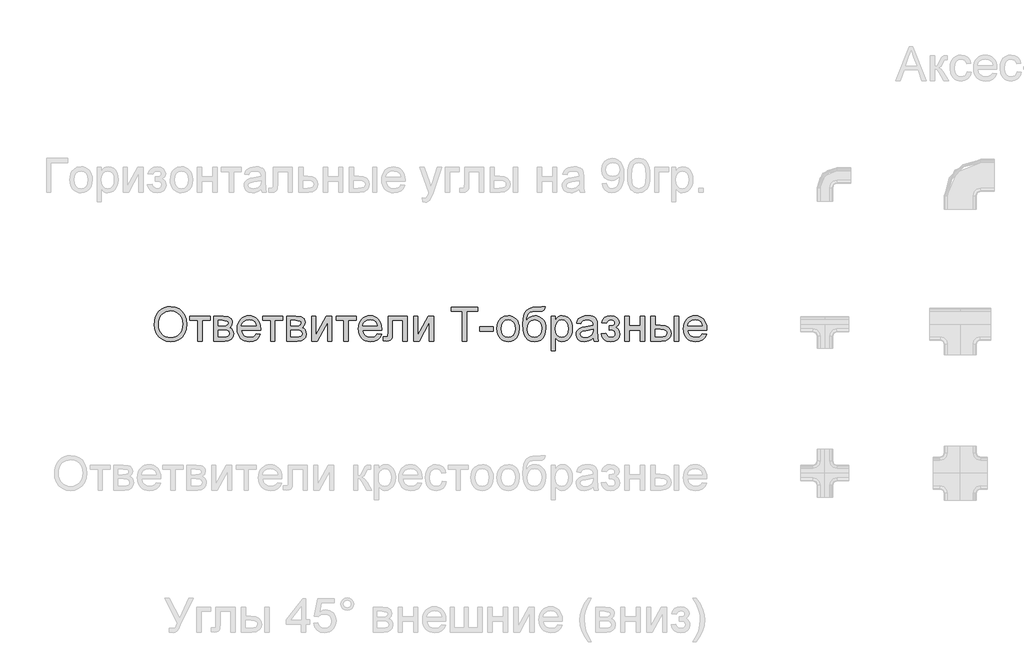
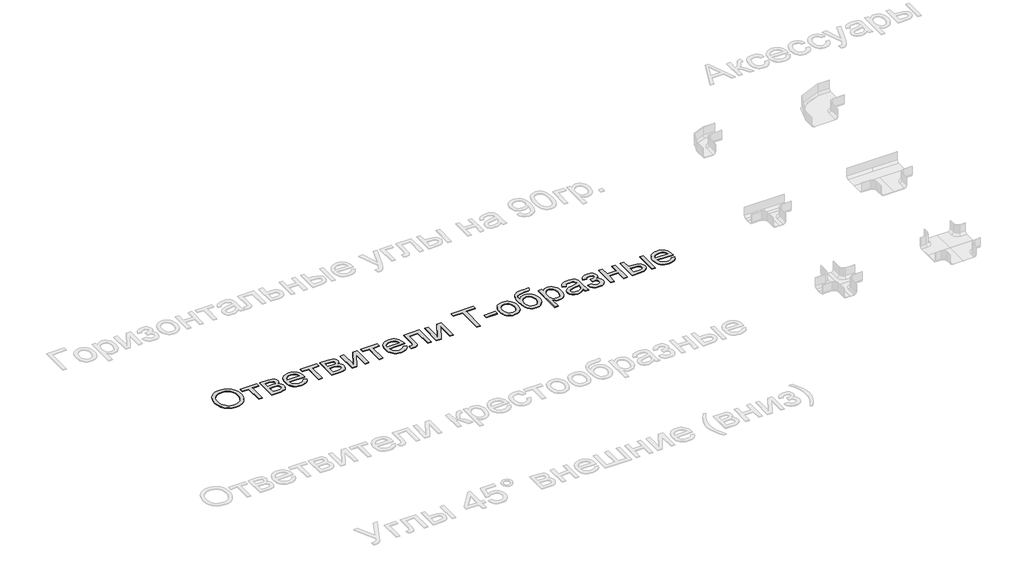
# One storey, part 6 of 11: 1 proxy.
"""IFC4 building model written with IfcOpenShell, lengths in millimetres."""

from ifc_helpers import new_model, si_unit, origin, origin_with_axes, place, context, project, spatial, polyline, outline, extrude, element, save

model = new_model("IFC4")

# Units and contexts
model_context = context("Model", 3, world=origin())
ifc_project = project(units=[si_unit("LENGTHUNIT", "METRE", prefix="MILLI")], contexts=[model_context])

# Site, building, storey
site = spatial("IfcSite", under=ifc_project)
building = spatial("IfcBuilding", under=site)
storey = spatial("IfcBuildingStorey", under=building, Name="Этаж 01", Elevation=0.0)

# Proxy
placement = place(None, origin())
element("IfcBuildingElementProxy", 1, Name="АБН_Маленькая надпись", ObjectType="АБН_Маленькая надпись", at=placement, inside=storey, context=model_context, shape_type="SweptSolid", body=[
    extrude(outline(polyline([(-18671.6670902, 5803.789007), (-18669.5747614, 5833.2463913), (-18663.2977748, 5859.3238599), (-18652.8361306, 5882.0214125), (-18638.1898287, 5901.3390494), (-18620.2364209, 5916.7632685), (-18599.8534591, 5927.7805678), (-18577.0409433, 5934.3909474), (-18551.7988735, 5936.5944073), (-18518.8581065, 5932.4557348), (-18489.320248, 5920.0397175), (-18464.7947816, 5900.220075), (-18446.8911912, 5873.8705271), (-18435.9467018, 5842.2633323), (-18432.2985387, 5806.6707493), (-18436.138307, 5770.6029854), (-18447.657612, 5738.5512665), (-18466.2203243, 5712.1557334), (-18491.1903148, 5693.0565265), (-18520.4752544, 5681.4682436), (-18551.9828145, 5677.6054827), (-18585.4294192, 5681.8744466), (-18615.1358903, 5694.6813386), (-18639.600043, 5714.8688631), (-18657.3196924, 5741.2797247), (-18668.0802408, 5771.6683103), (-18671.6670902, 5803.789007)]), holes=[polyline([(-18640.2744933, 5803.4824387), (-18638.7052467, 5782.6702812), (-18633.9975068, 5764.1957073), (-18626.1512736, 5748.0587168), (-18615.1665471, 5734.2593099), (-18601.8135803, 5723.2075216), (-18586.8626261, 5715.3133872), (-18570.3136845, 5710.5769065), (-18552.1667555, 5708.9980796), (-18533.709426, 5710.5922349), (-18516.9650471, 5715.3747008), (-18501.9336187, 5723.3454774), (-18488.6151408, 5734.5045646), (-18477.7108885, 5748.5952114), (-18469.9221369, 5765.3606669), (-18465.2488859, 5784.8009311), (-18463.6911356, 5806.916004), (-18466.3582801, 5834.706423), (-18474.3597135, 5858.7260516), (-18487.4885022, 5878.3694173), (-18505.5377126, 5893.0310477), (-18527.3117282, 5902.1591197), (-18551.6149325, 5905.2018103), (-18585.3834339, 5899.338691), (-18614.093558, 5881.7493331), (-18625.5477172, 5868.0629733), (-18633.7292595, 5850.4563709), (-18638.6381849, 5828.9295261), (-18640.2744933, 5803.4824387)])]), origin_with_axes(), (0.0, 0.0, 1.0), 5.0),
    extrude(outline(polyline([(-18408.754091, 5865.9610642), (-18259.6392556, 5865.9610642), (-18259.6392556, 5834.5684673), (-18318.5003749, 5834.5684673), (-18318.5003749, 5681.5295573), (-18349.8929718, 5681.5295573), (-18349.8929718, 5834.5684673), (-18408.754091, 5834.5684673), (-18408.754091, 5865.9610642)])), origin_with_axes(), (0.0, 0.0, 1.0), 5.0),
    extrude(outline(polyline([(-18232.1707333, 5865.9610642), (-18163.0089182, 5865.9610642), (-18125.0864159, 5861.7610781), (-18113.5441183, 5855.8136525), (-18103.7492602, 5846.3713479), (-18097.0584064, 5834.0702937), (-18094.8281218, 5819.5466191), (-18100.2237244, 5797.7496109), (-18116.4718458, 5782.2065966), (-18104.8529062, 5775.6843554), (-18095.3799448, 5765.1920543), (-18089.0799656, 5751.5574279), (-18086.9799726, 5735.6082106), (-18092.2989331, 5711.6805525), (-18104.9448767, 5694.8346228), (-18124.9637886, 5684.8558236), (-18152.401654, 5681.5295573), (-18232.1707333, 5681.5295573), (-18232.1707333, 5865.9610642)]), holes=[polyline([(-18200.7781364, 5795.3277211), (-18169.7534215, 5795.3277211), (-18144.154966, 5796.9218764), (-18131.7082918, 5803.2984977), (-18126.2207187, 5814.8254669), (-18128.6272801, 5824.1911293), (-18135.8469643, 5830.215197), (-18168.7724028, 5834.5684673), (-18200.7781364, 5834.5684673), (-18200.7781364, 5795.3277211)]), polyline([(-18200.7781364, 5712.9221542), (-18162.2731542, 5712.9221542), (-18141.2885521, 5714.3400327), (-18128.1214424, 5718.5936683), (-18121.0550424, 5726.3268544), (-18118.3725695, 5738.1833845), (-18123.7375153, 5753.2972032), (-18137.7170311, 5762.0957142), (-18165.3388375, 5763.9351242), (-18200.7781364, 5763.9351242), (-18200.7781364, 5712.9221542)])]), origin_with_axes(), (0.0, 0.0, 1.0), 5.0),
    extrude(outline(polyline([(-17918.6126461, 5736.4666019), (-17887.8331858, 5732.5425273), (-17898.9232952, 5709.3506332), (-17916.619952, 5692.0141941), (-17940.5246174, 5681.2076605), (-17970.2387528, 5677.6054827), (-17989.717338, 5679.1594009), (-18007.0729375, 5683.8211555), (-18022.3055514, 5691.5907466), (-18035.4151796, 5702.4681742), (-18045.957298, 5716.1507019), (-18053.4873826, 5732.3355937), (-18058.0054333, 5751.0228494), (-18059.5114503, 5772.2124691), (-18057.9901049, 5794.1206083), (-18053.4260689, 5813.430581), (-18045.8193423, 5830.142387), (-18035.1699249, 5844.2560265), (-18022.0947857, 5855.4687631), (-18007.2108933, 5863.4778607), (-17990.5182477, 5868.2833193), (-17972.0168491, 5869.8851388), (-17954.1113426, 5868.2871514), (-17937.9187866, 5863.4931891), (-17923.4391812, 5855.5032521), (-17910.6725264, 5844.3173401), (-17900.2511192, 5830.2343575), (-17892.807257, 5813.5532083), (-17888.3409396, 5794.2738925), (-17886.8521672, 5772.3964101), (-17887.0361082, 5763.9351242), (-18028.1188533, 5763.9351242), (-18022.6849297, 5740.4366618), (-18010.0619787, 5723.1615364), (-17991.8441558, 5712.5389438), (-17969.6256161, 5708.9980796), (-17952.9176422, 5710.6382201), (-17938.8461558, 5715.5586418), (-17927.4111572, 5724.065913), (-17918.6126461, 5736.4666019)]), holes=[polyline([(-18028.1188533, 5795.3277211), (-17918.2447641, 5795.3277211), (-17922.4907355, 5811.9130677), (-17930.8140656, 5823.7772621), (-17949.1161949, 5834.8137219), (-17972.1394764, 5838.4925419), (-17993.3003553, 5835.5571501), (-18010.7977427, 5826.7509749), (-18022.9608412, 5813.0243779), (-18028.1188533, 5795.3277211)])]), origin_with_axes(), (0.0, 0.0, 1.0), 5.0),
    extrude(outline(polyline([(-17871.1558687, 5865.9610642), (-17722.0410334, 5865.9610642), (-17722.0410334, 5834.5684673), (-17780.9021526, 5834.5684673), (-17780.9021526, 5681.5295573), (-17812.2947495, 5681.5295573), (-17812.2947495, 5834.5684673), (-17871.1558687, 5834.5684673), (-17871.1558687, 5865.9610642)])), origin_with_axes(), (0.0, 0.0, 1.0), 5.0),
    extrude(outline(polyline([(-17694.572511, 5865.9610642), (-17625.410696, 5865.9610642), (-17587.4881936, 5861.7610781), (-17575.945896, 5855.8136525), (-17566.1510379, 5846.3713479), (-17559.4601841, 5834.0702937), (-17557.2298995, 5819.5466191), (-17562.6255021, 5797.7496109), (-17578.8736236, 5782.2065966), (-17567.2546839, 5775.6843554), (-17557.7817225, 5765.1920543), (-17551.4817433, 5751.5574279), (-17549.3817503, 5735.6082106), (-17554.7007108, 5711.6805525), (-17567.3466544, 5694.8346228), (-17587.3655663, 5684.8558236), (-17614.8034318, 5681.5295573), (-17694.572511, 5681.5295573), (-17694.572511, 5865.9610642)]), holes=[polyline([(-17663.1799141, 5795.3277211), (-17632.1551992, 5795.3277211), (-17606.5567437, 5796.9218764), (-17594.1100695, 5803.2984977), (-17588.6224964, 5814.8254669), (-17591.0290578, 5824.1911293), (-17598.248742, 5830.215197), (-17631.1741805, 5834.5684673), (-17663.1799141, 5834.5684673), (-17663.1799141, 5795.3277211)]), polyline([(-17663.1799141, 5712.9221542), (-17624.674932, 5712.9221542), (-17603.6903298, 5714.3400327), (-17590.5232201, 5718.5936683), (-17583.4568201, 5726.3268544), (-17580.7743472, 5738.1833845), (-17586.139293, 5753.2972032), (-17600.1188088, 5762.0957142), (-17627.7406153, 5763.9351242), (-17663.1799141, 5763.9351242), (-17663.1799141, 5712.9221542)])]), origin_with_axes(), (0.0, 0.0, 1.0), 5.0),
    extrude(outline(polyline([(-17510.1410041, 5865.9610642), (-17478.7484072, 5865.9610642), (-17478.7484072, 5725.3075147), (-17401.6158156, 5865.9610642), (-17361.0261688, 5865.9610642), (-17361.0261688, 5681.5295573), (-17392.4187657, 5681.5295573), (-17392.4187657, 5821.3247154), (-17469.060848, 5681.5295573), (-17510.1410041, 5681.5295573), (-17510.1410041, 5865.9610642)])), origin_with_axes(), (0.0, 0.0, 1.0), 5.0),
    extrude(outline(polyline([(-17329.6335718, 5865.9610642), (-17180.5187364, 5865.9610642), (-17180.5187364, 5834.5684673), (-17239.3798557, 5834.5684673), (-17239.3798557, 5681.5295573), (-17270.7724526, 5681.5295573), (-17270.7724526, 5834.5684673), (-17329.6335718, 5834.5684673), (-17329.6335718, 5865.9610642)])), origin_with_axes(), (0.0, 0.0, 1.0), 5.0),
    extrude(outline(polyline([(-17023.9236338, 5736.4666019), (-16993.1441736, 5732.5425273), (-17004.2342829, 5709.3506332), (-17021.9309397, 5692.0141941), (-17045.8356052, 5681.2076605), (-17075.5497405, 5677.6054827), (-17095.0283257, 5679.1594009), (-17112.3839253, 5683.8211555), (-17127.6165391, 5691.5907466), (-17140.7261673, 5702.4681742), (-17151.2682857, 5716.1507019), (-17158.7983703, 5732.3355937), (-17163.3164211, 5751.0228494), (-17164.822438, 5772.2124691), (-17163.3010927, 5794.1206083), (-17158.7370567, 5813.430581), (-17151.13033, 5830.142387), (-17140.4809126, 5844.2560265), (-17127.4057734, 5855.4687631), (-17112.521881, 5863.4778607), (-17095.8292355, 5868.2833193), (-17077.3278368, 5869.8851388), (-17059.4223303, 5868.2871514), (-17043.2297744, 5863.4931891), (-17028.750169, 5855.5032521), (-17015.9835141, 5844.3173401), (-17005.562107, 5830.2343575), (-16998.1182447, 5813.5532083), (-16993.6519274, 5794.2738925), (-16992.1631549, 5772.3964101), (-16992.3470959, 5763.9351242), (-17133.4298411, 5763.9351242), (-17127.9959174, 5740.4366618), (-17115.3729665, 5723.1615364), (-17097.1551435, 5712.5389438), (-17074.9366038, 5708.9980796), (-17058.2286299, 5710.6382201), (-17044.1571436, 5715.5586418), (-17032.7221449, 5724.065913), (-17023.9236338, 5736.4666019)]), holes=[polyline([(-17133.4298411, 5795.3277211), (-17023.5557518, 5795.3277211), (-17027.8017232, 5811.9130677), (-17036.1250533, 5823.7772621), (-17054.4271826, 5834.8137219), (-17077.4504641, 5838.4925419), (-17098.6113431, 5835.5571501), (-17116.1087305, 5826.7509749), (-17128.2718289, 5813.0243779), (-17133.4298411, 5795.3277211)])]), origin_with_axes(), (0.0, 0.0, 1.0), 5.0),
    extrude(outline(polyline([(-16945.0742595, 5865.9610642), (-16803.8075734, 5865.9610642), (-16803.8075734, 5681.7134983), (-16835.2001703, 5681.7134983), (-16835.2001703, 5834.5684673), (-16913.6816626, 5834.5684673), (-16913.6816626, 5746.5833568), (-16915.7969841, 5705.99371), (-16919.7593797, 5696.8043243), (-16927.4159238, 5688.8565403), (-16939.0348634, 5683.361303), (-16954.8844461, 5681.5295573), (-16980.3909311, 5683.1237126), (-16980.3909311, 5712.9221542), (-16966.3501016, 5712.9221542), (-16952.1559879, 5714.8535347), (-16946.4844739, 5720.9849013), (-16945.0742595, 5748.3614531), (-16945.0742595, 5865.9610642)])), origin_with_axes(), (0.0, 0.0, 1.0), 5.0),
    extrude(outline(polyline([(-16756.718678, 5865.9610642), (-16725.3260811, 5865.9610642), (-16725.3260811, 5725.3075147), (-16648.1934894, 5865.9610642), (-16607.6038426, 5865.9610642), (-16607.6038426, 5681.5295573), (-16638.9964395, 5681.5295573), (-16638.9964395, 5821.3247154), (-16715.6385219, 5681.5295573), (-16756.718678, 5681.5295573), (-16756.718678, 5865.9610642)])), origin_with_axes(), (0.0, 0.0, 1.0), 5.0),
    extrude(outline(polyline([(-16395.7038134, 5681.5295573), (-16395.7038134, 5901.2777357), (-16478.1093803, 5901.2777357), (-16478.1093803, 5932.6703326), (-16281.9056496, 5932.6703326), (-16281.9056496, 5901.2777357), (-16364.3112165, 5901.2777357), (-16364.3112165, 5681.5295573), (-16395.7038134, 5681.5295573)])), origin_with_axes(), (0.0, 0.0, 1.0), 5.0),
    extrude(outline(polyline([(-16266.2093511, 5756.086975), (-16266.2093511, 5787.4795719), (-16168.1074857, 5787.4795719), (-16168.1074857, 5756.086975), (-16266.2093511, 5756.086975)])), origin_with_axes(), (0.0, 0.0, 1.0), 5.0),
    extrude(outline(polyline([(-16140.6389634, 5773.7453107), (-16138.9413413, 5797.6308157), (-16133.8484749, 5818.2130469), (-16125.3603643, 5835.4920044), (-16113.4770094, 5849.4676881), (-16088.3077496, 5864.7807761), (-16058.1720828, 5869.8851388), (-16040.8528883, 5868.3312206), (-16025.1929948, 5863.6694659), (-16011.1924024, 5855.8998748), (-15998.8511111, 5845.0224473), (-15988.7784254, 5831.4050653), (-15981.58365, 5815.4156109), (-15977.2667847, 5797.054084), (-15975.8278296, 5776.3204847), (-15978.3723467, 5744.605991), (-15986.0058981, 5720.4637351), (-15998.5062217, 5702.3838679), (-16015.6510556, 5688.8565403), (-16036.0148568, 5680.4182471), (-16058.1720828, 5677.6054827), (-16075.7441963, 5679.1536527), (-16091.5497097, 5683.7981629), (-16105.5886231, 5691.5390132), (-16117.8609365, 5702.3762037), (-16127.8263233, 5716.1257932), (-16134.9444567, 5732.6038409), (-16139.2153367, 5751.8103468), (-16140.6389634, 5773.7453107)]), holes=[polyline([(-16109.2463665, 5773.8066244), (-16105.6135318, 5745.3954045), (-16094.7150277, 5725.1542305), (-16078.3136221, 5713.0371173), (-16058.1720828, 5708.9980796), (-16038.1225141, 5713.0601099), (-16021.7517653, 5725.246201), (-16010.8532612, 5745.7556223), (-16007.2204265, 5774.7876431), (-16010.8762538, 5802.3711285), (-16021.8437358, 5822.3363909), (-16038.2374772, 5834.4535041), (-16058.1720828, 5838.4925419), (-16078.3136221, 5834.4688326), (-16094.7150277, 5822.3977046), (-16105.6135318, 5802.2025159), (-16109.2463665, 5773.8066244)])]), origin_with_axes(), (0.0, 0.0, 1.0), 5.0),
    extrude(outline(polyline([(-15811.0166957, 5936.5944073), (-15783.5481734, 5936.5944073), (-15786.5218862, 5921.6721938), (-15791.6415773, 5912.0995978), (-15807.6444441, 5903.239773), (-15846.0881126, 5901.2777357), (-15878.0095399, 5899.4689826), (-15897.8675034, 5894.0427232), (-15909.7470262, 5884.6310754), (-15917.7331312, 5870.8661575), (-15922.4312908, 5852.6406703), (-15924.4469776, 5829.847315), (-15911.8240266, 5847.3830234), (-15897.2543668, 5859.8910113), (-15880.7226696, 5867.3866069), (-15862.2136067, 5869.8851388), (-15845.1109261, 5868.2967316), (-15829.5487512, 5863.5315102), (-15815.5270823, 5855.5894744), (-15803.0459192, 5844.4706243), (-15792.7988728, 5830.6424766), (-15785.4795539, 5814.572548), (-15781.0879626, 5796.2608385), (-15779.6240988, 5775.707348), (-15782.5288337, 5745.7402938), (-15791.2430385, 5721.6900084), (-15803.9426315, 5702.9970045), (-15818.8035313, 5689.101795), (-15837.6268267, 5680.4795607), (-15862.2136067, 5677.6054827), (-15890.5481846, 5681.3072952), (-15911.7857056, 5692.412733), (-15927.4130262, 5709.2893195), (-15938.9170027, 5730.3045785), (-15945.9987311, 5761.9500943), (-15948.3593073, 5810.7174512), (-15946.8705348, 5843.7712653), (-15942.4042175, 5870.9504637), (-15934.9603552, 5892.2550466), (-15924.5389481, 5907.6850138), (-15911.028865, 5918.6160908), (-15894.318975, 5926.4240029), (-15874.4092781, 5931.1087502), (-15851.2997742, 5932.6703326), (-15816.3509847, 5933.3754398), (-15811.0166957, 5936.5944073)]), holes=[polyline([(-15811.0166957, 5776.6883667), (-15814.4196042, 5801.3901098), (-15824.6283296, 5821.1714313), (-15841.0297352, 5834.1622642), (-15863.0106844, 5838.4925419), (-15885.926667, 5833.9170096), (-15902.9258809, 5820.1904126), (-15913.456503, 5798.8149359), (-15916.9667103, 5771.2927641), (-15913.088621, 5744.6136552), (-15901.4543529, 5725.0316032), (-15884.1332423, 5713.0064605), (-15863.1946254, 5708.9980796), (-15842.1487096, 5713.6349256), (-15825.4867209, 5727.5454635), (-15814.634202, 5749.1048813), (-15811.0166957, 5776.6883667)])]), origin_with_axes(), (0.0, 0.0, 1.0), 5.0),
    extrude(outline(polyline([(-15740.3833527, 5610.8962142), (-15740.3833527, 5865.9610642), (-15708.9907557, 5865.9610642), (-15708.9907557, 5835.1816039), (-15698.7513735, 5850.3644004), (-15687.285718, 5861.2092551), (-15673.9193389, 5867.7161679), (-15657.9777857, 5869.8851388), (-15636.7479289, 5866.8501123), (-15618.1852166, 5857.745033), (-15603.071398, 5843.1217237), (-15592.1882223, 5823.5320074), (-15585.6123316, 5800.401427), (-15583.4203681, 5775.155525), (-15585.8959073, 5748.3078036), (-15593.3225251, 5724.2958392), (-15605.4626309, 5704.338241), (-15622.0786344, 5689.653618), (-15641.4307602, 5680.6175165), (-15661.779233, 5677.6054827), (-15676.2109371, 5679.6211694), (-15689.0944712, 5685.6682297), (-15708.9907557, 5706.0550236), (-15708.9907557, 5610.8962142), (-15740.3833527, 5610.8962142)]), holes=[polyline([(-15708.9907557, 5772.2737828), (-15705.5955115, 5744.1308101), (-15695.4097788, 5724.4491234), (-15680.3802664, 5712.8608405), (-15662.4536834, 5708.9980796), (-15644.2358604, 5712.9987963), (-15628.8231376, 5725.0009464), (-15618.3155081, 5745.4030687), (-15614.812965, 5774.6037021), (-15618.2312018, 5802.5933905), (-15628.4859125, 5822.5509888), (-15643.4924322, 5834.5071536), (-15661.1660964, 5838.4925419), (-15678.9087384, 5834.2542347), (-15694.4900738, 5821.5393133), (-15705.3655852, 5800.7463163), (-15708.9907557, 5772.2737828)])]), origin_with_axes(), (0.0, 0.0, 1.0), 5.0),
    extrude(outline(polyline([(-15430.3814581, 5705.074005), (-15445.3803136, 5692.2134636), (-15460.8236932, 5683.7981629), (-15477.0641504, 5679.1536527), (-15494.4542389, 5677.6054827), (-15520.6888237, 5681.3302879), (-15540.0409495, 5692.5047035), (-15551.9741217, 5709.4732605), (-15555.9518457, 5730.58049), (-15554.4496609, 5743.5943155), (-15549.9431065, 5755.4125246), (-15534.1548375, 5773.4387424), (-15512.1738883, 5783.7394383), (-15485.0119343, 5788.4605905), (-15430.5653991, 5799.2517957), (-15430.3814581, 5806.2415536), (-15432.5427648, 5820.2517263), (-15439.0266849, 5829.4181193), (-15453.5273669, 5836.2239362), (-15473.7302198, 5838.4925419), (-15492.4308879, 5836.9826929), (-15505.4906987, 5832.4531458), (-15514.3965087, 5824.0761662), (-15520.6351742, 5811.0240196), (-15552.0277711, 5814.9480942), (-15546.5785191, 5832.1159206), (-15538.4467941, 5845.6049271), (-15526.8738397, 5855.9209514), (-15511.1008992, 5863.5698312), (-15491.810087, 5868.3063119), (-15469.6835179, 5869.8851388), (-15448.4613253, 5868.4902529), (-15431.6383882, 5864.3055952), (-15418.9541236, 5858.0132803), (-15410.1479483, 5850.2954226), (-15400.5217028, 5828.9889237), (-15398.9888611, 5801.5204014), (-15398.9888611, 5762.4635962), (-15397.3947058, 5707.9250904), (-15391.1407119, 5681.5295573), (-15422.5333088, 5681.5295573), (-15430.3814581, 5705.074005)]), holes=[polyline([(-15430.3814581, 5767.8591988), (-15481.0265461, 5758.2329533), (-15508.0352159, 5753.143919), (-15520.2672922, 5744.8665741), (-15524.5592488, 5732.7877819), (-15522.2216653, 5723.4527763), (-15515.2089148, 5715.8038965), (-15503.6742814, 5710.6995338), (-15487.7710493, 5708.9980796), (-15470.9097912, 5710.8758106), (-15456.0105704, 5716.5090036), (-15443.9317782, 5724.8093412), (-15435.531806, 5734.6885056), (-15431.8070008, 5744.8665741), (-15430.5653991, 5758.9687173), (-15430.3814581, 5767.8591988)])]), origin_with_axes(), (0.0, 0.0, 1.0), 5.0),
    extrude(outline(polyline([(-15312.6592196, 5763.9351242), (-15312.6592196, 5795.3277211), (-15287.8884986, 5796.5539944), (-15275.3805108, 5803.0838998), (-15270.9659268, 5809.2076022), (-15269.4943988, 5816.7261905), (-15271.4641004, 5825.6549931), (-15277.3732049, 5832.5757731), (-15286.393978, 5837.0133497), (-15297.6986851, 5838.4925419), (-15309.1260196, 5837.0210139), (-15318.6986157, 5832.60643), (-15326.4164734, 5825.2487901), (-15332.2795927, 5814.9480942), (-15367.5962642, 5818.8721688), (-15358.2306018, 5841.1903432), (-15343.9905029, 5857.1318963), (-15324.8759675, 5866.6968282), (-15300.8869958, 5869.8851388), (-15274.6447468, 5865.9993852), (-15254.779119, 5854.3421245), (-15242.2711312, 5837.2892612), (-15238.1018019, 5817.2166998), (-15244.0338991, 5797.7189541), (-15261.8301906, 5782.6357923), (-15249.7130774, 5773.9139233), (-15241.0755147, 5763.0767329), (-15235.9021742, 5750.0935641), (-15234.1777273, 5734.9337602), (-15238.5539902, 5711.8261724), (-15251.6827789, 5693.516379), (-15272.6750453, 5681.5832067), (-15300.6417411, 5677.6054827), (-15327.9953003, 5681.2843026), (-15348.926253, 5692.3207625), (-15363.4345991, 5710.7148622), (-15371.5203388, 5736.4666019), (-15336.2036673, 5740.3906765), (-15330.9153636, 5727.1162678), (-15322.0402105, 5717.2141108), (-15310.6052118, 5711.0520874), (-15297.6373715, 5708.9980796), (-15285.0067563, 5710.9677811), (-15274.7060604, 5716.8768856), (-15267.8542583, 5725.8516735), (-15265.5703242, 5737.0184249), (-15271.2418383, 5753.511801), (-15283.3206305, 5762.3409689), (-15306.527853, 5764.1190652), (-15312.6592196, 5763.9351242)])), origin_with_axes(), (0.0, 0.0, 1.0), 5.0),
    extrude(outline(polyline([(-15194.9369811, 5865.9610642), (-15163.5443842, 5865.9610642), (-15163.5443842, 5795.3277211), (-15081.1388173, 5795.3277211), (-15081.1388173, 5865.9610642), (-15049.7462204, 5865.9610642), (-15049.7462204, 5681.5295573), (-15081.1388173, 5681.5295573), (-15081.1388173, 5763.9351242), (-15163.5443842, 5763.9351242), (-15163.5443842, 5681.5295573), (-15194.9369811, 5681.5295573), (-15194.9369811, 5865.9610642)])), origin_with_axes(), (0.0, 0.0, 1.0), 5.0),
    extrude(outline(polyline([(-14829.9980419, 5865.9610642), (-14798.605445, 5865.9610642), (-14798.605445, 5681.5295573), (-14829.9980419, 5681.5295573), (-14829.9980419, 5865.9610642)])), origin_with_axes(), (0.0, 0.0, 1.0), 5.0),
    extrude(outline(polyline([(-15002.657325, 5865.9610642), (-14971.2647281, 5865.9610642), (-14971.2647281, 5799.2517957), (-14932.4531776, 5799.2517957), (-14898.9069382, 5795.3200569), (-14874.0519109, 5783.5248404), (-14858.6698449, 5764.8165081), (-14853.5424896, 5740.1454218), (-14857.8421104, 5717.6816275), (-14870.7409729, 5698.7280405), (-14893.0821399, 5685.8291781), (-14925.7086743, 5681.5295573), (-15002.657325, 5681.5295573), (-15002.657325, 5865.9610642)]), holes=[polyline([(-14971.2647281, 5712.9221542), (-14939.0137398, 5712.9221542), (-14914.0130926, 5714.569959), (-14897.3817607, 5719.5133733), (-14888.0467551, 5727.9516665), (-14884.9350865, 5740.0841082), (-14887.2420132, 5750.3388188), (-14894.1627933, 5759.3979129), (-14908.9623794, 5765.7438773), (-14934.9057242, 5767.8591988), (-14971.2647281, 5767.8591988), (-14971.2647281, 5712.9221542)])]), origin_with_axes(), (0.0, 0.0, 1.0), 5.0),
    extrude(outline(polyline([(-14622.3899693, 5736.4666019), (-14591.6105091, 5732.5425273), (-14602.7006184, 5709.3506332), (-14620.3972752, 5692.0141941), (-14644.3019407, 5681.2076605), (-14674.016076, 5677.6054827), (-14693.4946612, 5679.1594009), (-14710.8502607, 5683.8211555), (-14726.0828746, 5691.5907466), (-14739.1925028, 5702.4681742), (-14749.7346212, 5716.1507019), (-14757.2647058, 5732.3355937), (-14761.7827566, 5751.0228494), (-14763.2887735, 5772.2124691), (-14761.7674281, 5794.1206083), (-14757.2033921, 5813.430581), (-14749.5966655, 5830.142387), (-14738.9472481, 5844.2560265), (-14725.8721089, 5855.4687631), (-14710.9882165, 5863.4778607), (-14694.295571, 5868.2833193), (-14675.7941723, 5869.8851388), (-14657.8886658, 5868.2871514), (-14641.6961099, 5863.4931891), (-14627.2165045, 5855.5032521), (-14614.4498496, 5844.3173401), (-14604.0284424, 5830.2343575), (-14596.5845802, 5813.5532083), (-14592.1182629, 5794.2738925), (-14590.6294904, 5772.3964101), (-14590.8134314, 5763.9351242), (-14731.8961766, 5763.9351242), (-14726.4622529, 5740.4366618), (-14713.839302, 5723.1615364), (-14695.621479, 5712.5389438), (-14673.4029393, 5708.9980796), (-14656.6949654, 5710.6382201), (-14642.6234791, 5715.5586418), (-14631.1884804, 5724.065913), (-14622.3899693, 5736.4666019)]), holes=[polyline([(-14731.8961766, 5795.3277211), (-14622.0220873, 5795.3277211), (-14626.2680587, 5811.9130677), (-14634.5913888, 5823.7772621), (-14652.8935181, 5834.8137219), (-14675.9167996, 5838.4925419), (-14697.0776786, 5835.5571501), (-14714.5750659, 5826.7509749), (-14726.7381644, 5813.0243779), (-14731.8961766, 5795.3277211)])]), origin_with_axes(), (0.0, 0.0, 1.0), 5.0),
])

save(model, "model.ifc")
